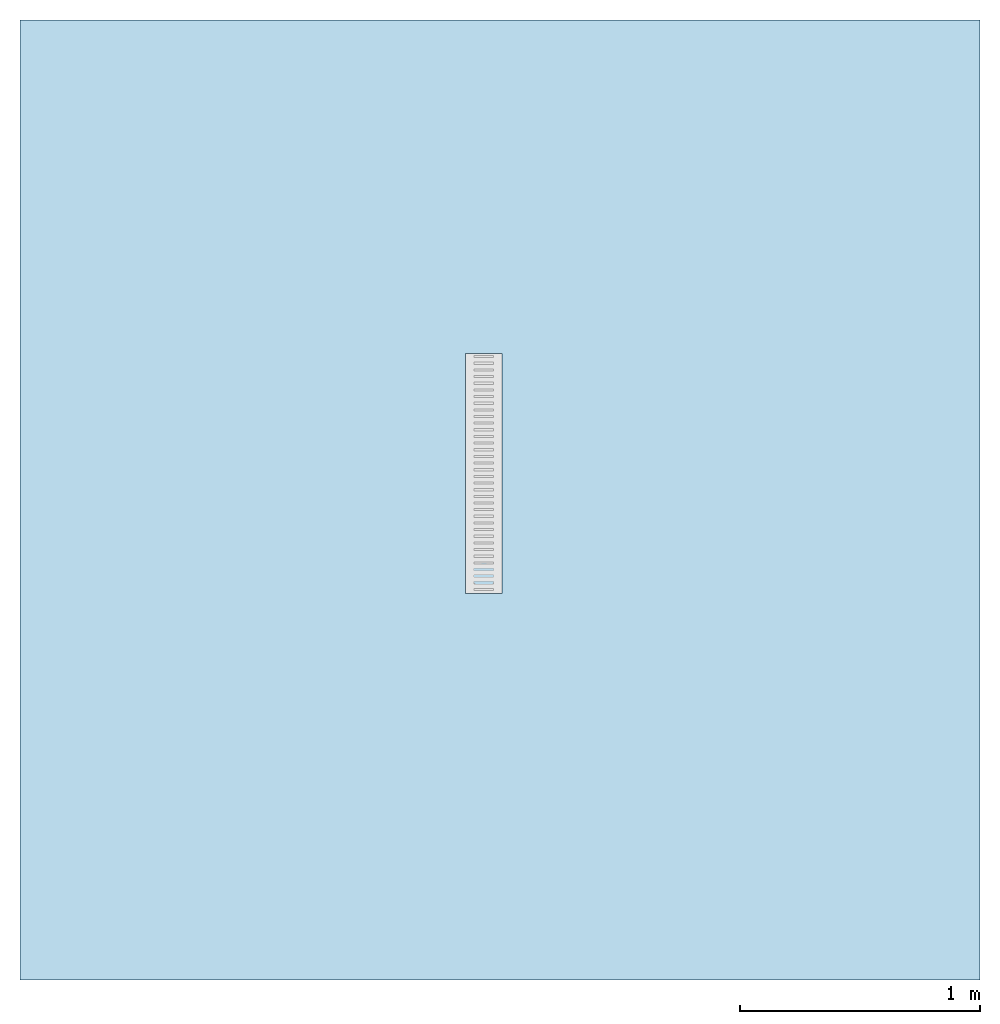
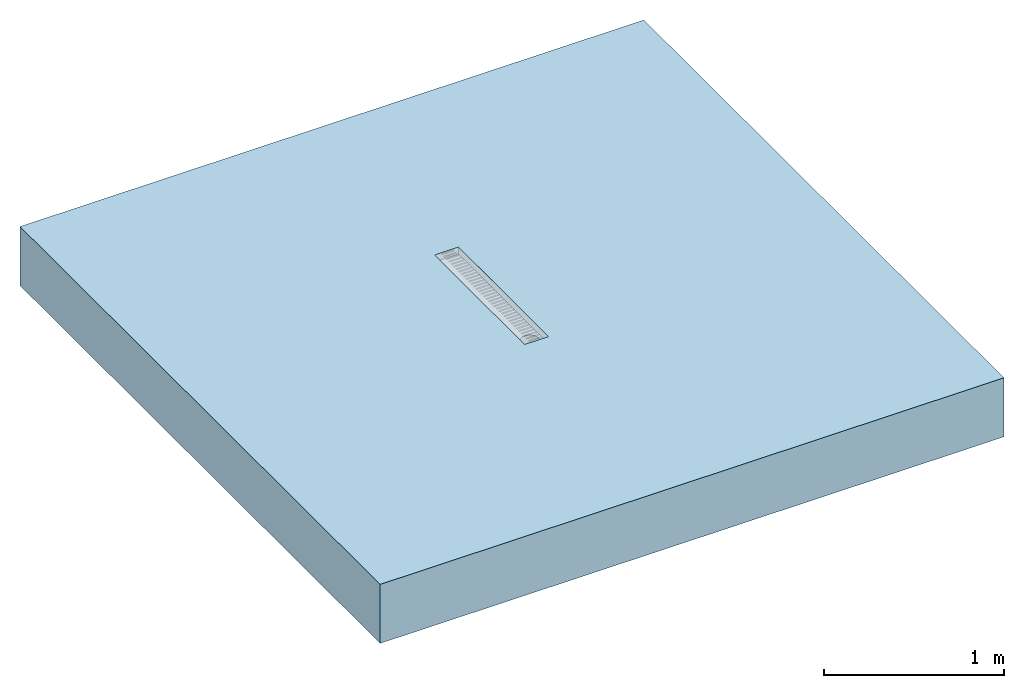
# One storey, incomplete: 1 slab, 1 opening.
"""IFC2X3 building model written with IfcOpenShell, lengths in millimetres."""

from ifc_helpers import new_model, entity, si_unit, converted_unit, direction, frame, frame_2d, origin, place, context, subcontext, project, spatial, rectangle, extrude, faceted_brep, material, layer, layer_set, layer_usage, element, save


model = new_model("IFC2X3")

# Units and contexts
model_context = context("Model", 3, precision=1e-06, world=origin(), true_north=direction((2.0, 6.12303176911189e-17, 1.0)))
context_of_model = context(None, 3, precision=1e-06, world=origin(), true_north=direction((2.0, 6.12303176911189e-17, 1.0)))
body_context = subcontext(model_context, "Body", "Model", "MODEL_VIEW")
ifc_project = project(units=[si_unit("LENGTHUNIT", "METRE", prefix="MILLI"), si_unit("AREAUNIT", "SQUARE_METRE", prefix="MILLI"), si_unit("VOLUMEUNIT", "CUBIC_METRE", prefix="MILLI"), converted_unit("PLANEANGLEUNIT", "DEGREE", entity("IfcRatioMeasure", 0.0174532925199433), si_unit("PLANEANGLEUNIT", "RADIAN"), dimensions=[0, 0, 0, 0, 0, 0, 0]), si_unit("TIMEUNIT", "SECOND")], contexts=[model_context, context_of_model])

# Site, building, storey
site_placement = place(None, origin())
site = spatial("IfcSite", under=ifc_project, at=site_placement, Name="Default", CompositionType="ELEMENT")
building_placement = place(site_placement, origin())
building = spatial("IfcBuilding", under=site, at=building_placement, CompositionType="ELEMENT")
storey_placement = place(building_placement, origin())
storey = spatial("IfcBuildingStorey", under=building, at=storey_placement, Name="Level 1", CompositionType="ELEMENT", Elevation=0.0)

# Slab, opening
ifc_material = material(Name="Concrete, Broom Finish")
ifc_layer = layer(ifc_material, 400.0)
ifc_layer_set = layer_set([ifc_layer], Name="Floor:Generic Floor - 400mm")
ifc_layer_usage = layer_usage(ifc_layer_set, "AXIS3", "POSITIVE", 0.0)
slab_placement = place(storey_placement, origin())
slab = element("IfcSlab", 1, at=slab_placement, inside=storey, material=ifc_layer_usage, Name="Floor:Generic Floor - 400mm", ObjectType="Floor:Generic Floor - 400mm", PredefinedType="FLOOR", context=body_context, shape_type="SweptSolid", body=[
    extrude(rectangle(XDim=4000.0, YDim=4000.0, at=frame_2d((0.0, 0.0), x_axis=(0.0, -1.0))), frame((-42.176138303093, 0.318612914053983, 0.0), z_axis=(0.0, 0.0, -1.0), x_axis=(-1.0, 0.0, 0.0)), (0.0, 0.0, 1.0), 400.0),
])
opening_placement = place(slab_placement, frame((-185.868314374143, -388.920746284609, -166.999997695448)))
element("IfcOpeningElement", 2, at=opening_placement, cuts=slab, ObjectType="Recess", context=body_context, shape_type="Brep", body=[
    faceted_brep([(0.0, 0.0, 120.194915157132), (153.0, 0.0, 167.000007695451), (153.0, 0.0, 120.194915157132), (0.0, 0.0, 167.000007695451), (153.0, 1000.0, 120.194915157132), (0.0, 1000.0, 167.000007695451), (0.0, 1000.0, 120.194915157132), (153.0, 1000.0, 167.000007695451), (76.4999999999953, 20.0, 120.194915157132), (62.2649525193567, 21.8740795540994, 120.194915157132), (49.0, 27.3686027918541, 120.194915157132), (28.8686027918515, 47.4999999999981, 120.194915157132), (23.3740795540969, 60.7649525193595, 120.194915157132), (37.6091270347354, 36.1091270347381, 120.194915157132), (21.4999999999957, 75.0, 120.194915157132), (104.0, 27.3686027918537, 120.194915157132), (90.7350474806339, 21.8740795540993, 120.194915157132), (115.390872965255, 36.1091270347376, 120.194915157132), (124.13139720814, 47.4999999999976, 120.194915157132), (131.499999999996, 75.0, 120.194915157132), (129.625920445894, 60.7649525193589, 120.194915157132), (129.625920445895, 89.2350474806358, 120.194915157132), (23.3740795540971, 89.2350474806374, 120.194915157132), (28.8686027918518, 102.499999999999, 120.194915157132), (49.0, 122.631397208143, 120.194915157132), (37.6091270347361, 113.890872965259, 120.194915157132), (62.2649525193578, 128.125920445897, 120.194915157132), (76.4999999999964, 130.0, 120.194915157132), (115.390872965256, 113.890872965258, 120.194915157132), (124.13139720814, 102.499999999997, 120.194915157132), (90.7350474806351, 128.125920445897, 120.194915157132), (104.0, 122.631397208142, 120.194915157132), (76.4999999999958, 130.0, 0.0), (28.8686027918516, 102.499999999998, 0.0), (90.7350474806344, 128.125920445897, 0.0), (104.0, 122.631397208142, 0.0), (115.390872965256, 113.890872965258, 0.0), (129.625920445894, 89.2350474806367, 0.0), (124.13139720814, 102.499999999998, 0.0), (23.3740795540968, 60.7649525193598, 0.0), (62.2649525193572, 128.125920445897, 0.0), (49.0, 122.631397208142, 0.0), (37.6091270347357, 113.890872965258, 0.0), (21.4999999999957, 75.0, 0.0), (23.374079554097, 89.235047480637, 0.0), (129.625920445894, 60.7649525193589, 0.0), (124.131397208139, 47.4999999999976, 0.0), (28.8686027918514, 47.4999999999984, 0.0), (76.4999999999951, 20.0, 0.0), (104.0, 27.3686027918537, 0.0), (115.390872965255, 36.1091270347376, 0.0), (90.7350474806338, 21.8740795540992, 0.0), (37.6091270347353, 36.1091270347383, 0.0), (62.2649525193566, 21.8740795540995, 0.0), (49.0, 27.3686027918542, 0.0), (131.499999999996, 75.0, 0.0)], [[[0, 1, 2]], [[1, 0, 3]], [[4, 5, 6]], [[5, 4, 7]], [[7, 1, 3]], [[3, 5, 7]], [[5, 3, 0]], [[0, 6, 5]], [[8, 9, 0]], [[10, 0, 9]], [[2, 8, 0]], [[0, 11, 12]], [[0, 10, 13]], [[0, 13, 11]], [[12, 14, 0]], [[15, 16, 2]], [[8, 2, 16]], [[17, 15, 2]], [[2, 18, 17]], [[2, 19, 20]], [[2, 20, 18]], [[21, 19, 2]], [[22, 0, 14]], [[6, 22, 23]], [[24, 6, 25]], [[23, 25, 6]], [[6, 24, 26]], [[26, 27, 6]], [[22, 6, 0]], [[4, 28, 29]], [[4, 29, 21]], [[4, 27, 30]], [[28, 4, 31]], [[30, 31, 4]], [[4, 6, 27]], [[2, 4, 21]], [[4, 2, 1]], [[1, 7, 4]], [[32, 33, 34]], [[35, 34, 36]], [[37, 38, 36]], [[33, 36, 34]], [[33, 39, 36]], [[40, 41, 32]], [[41, 42, 32]], [[43, 39, 44]], [[33, 32, 42]], [[39, 33, 44]], [[37, 36, 39]], [[45, 37, 46]], [[46, 37, 47]], [[48, 49, 46]], [[50, 46, 49]], [[49, 48, 51]], [[52, 53, 47]], [[47, 37, 39]], [[54, 53, 52]], [[53, 46, 47]], [[46, 53, 48]], [[55, 37, 45]], [[21, 37, 55]], [[34, 35, 31]], [[36, 28, 35]], [[32, 34, 30]], [[21, 29, 37]], [[55, 19, 21]], [[29, 28, 38]], [[28, 36, 38]], [[31, 35, 28]], [[31, 30, 34]], [[37, 29, 38]], [[30, 27, 32]], [[41, 40, 26]], [[41, 24, 42]], [[44, 33, 23]], [[25, 33, 42]], [[43, 44, 22]], [[27, 26, 40]], [[26, 24, 41]], [[24, 25, 42]], [[43, 22, 14]], [[33, 25, 23]], [[23, 22, 44]], [[32, 27, 40]], [[47, 39, 12]], [[47, 11, 52]], [[53, 54, 10]], [[13, 54, 52]], [[48, 53, 9]], [[43, 14, 39]], [[14, 12, 39]], [[12, 11, 47]], [[11, 13, 52]], [[54, 13, 10]], [[10, 9, 53]], [[9, 8, 48]], [[49, 51, 16]], [[49, 15, 50]], [[45, 46, 18]], [[17, 46, 50]], [[55, 45, 20]], [[8, 16, 51]], [[16, 15, 49]], [[15, 17, 50]], [[55, 20, 19]], [[46, 17, 18]], [[18, 20, 45]], [[48, 8, 51]]]),
])

save(model, "model.ifc")
